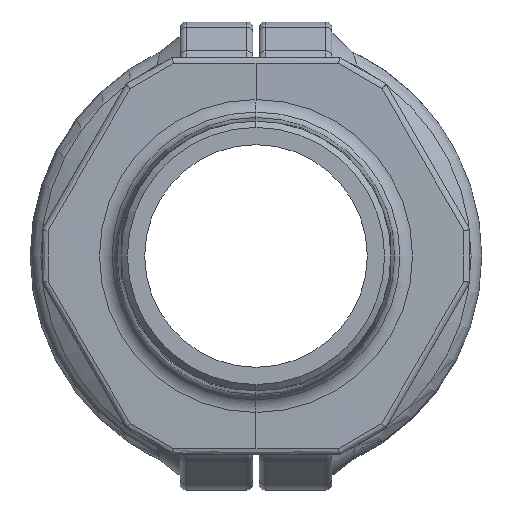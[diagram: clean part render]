
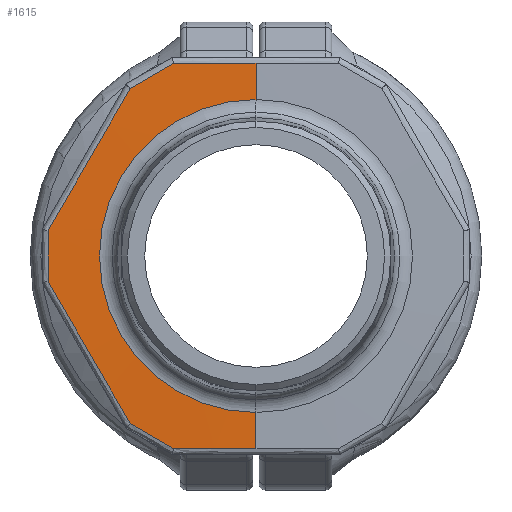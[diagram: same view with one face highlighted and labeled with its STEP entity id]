
A CAD part, left-side view. The second image highlights one B-rep face of the part: STEP entity #1615.
In plain terms, the highlighted conical face has half-angle 89 degrees and reference radius 30.107 mm.
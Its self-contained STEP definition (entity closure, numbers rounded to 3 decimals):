
#318=CARTESIAN_POINT('',(-61.516,13.528,31.704));
#330=CARTESIAN_POINT('',(-61.516,20.693,27.567));
#389=CARTESIAN_POINT('',(-61.516,13.528,31.704));
#390=CARTESIAN_POINT('',(-61.547,9.019,31.705));
#391=CARTESIAN_POINT('',(-61.563,4.509,31.706));
#392=CARTESIAN_POINT('',(-61.563,0.,
31.706));
#397=DIRECTION('',(-0.018,0.,-1.));
#398=VECTOR('',#397,5.962);
#399=CARTESIAN_POINT('',(-61.563,0.,
31.706));
#400=LINE('',#399,#398);
#404=CARTESIAN_POINT('',(-61.563,0.,
-31.706));
#405=CARTESIAN_POINT('',(-61.563,4.51,-31.706));
#406=CARTESIAN_POINT('',(-61.547,9.019,-31.705));
#407=CARTESIAN_POINT('',(-61.516,13.528,-31.704));
#412=CARTESIAN_POINT('',(-61.516,13.528,-31.704));
#413=CARTESIAN_POINT('',(-61.522,15.916,-30.326));
#414=CARTESIAN_POINT('',(-61.522,18.305,-28.947));
#415=CARTESIAN_POINT('',(-61.516,20.693,-27.567));
#420=CARTESIAN_POINT('',(-61.516,20.693,-27.567));
#421=CARTESIAN_POINT('',(-61.577,25.203,-19.759));
#422=CARTESIAN_POINT('',(-61.577,29.713,-11.947));
#423=CARTESIAN_POINT('',(-61.516,34.221,-4.137));
#428=CARTESIAN_POINT('',(-61.516,34.221,-4.137));
#429=CARTESIAN_POINT('',(-61.522,34.221,-1.379));
#430=CARTESIAN_POINT('',(-61.522,34.221,1.379));
#431=CARTESIAN_POINT('',(-61.516,34.221,4.137));
#436=CARTESIAN_POINT('',(-61.516,34.221,4.137));
#437=CARTESIAN_POINT('',(-61.577,29.713,11.947));
#438=CARTESIAN_POINT('',(-61.577,25.203,19.759));
#439=CARTESIAN_POINT('',(-61.516,20.693,27.567));
#444=CARTESIAN_POINT('',(-61.516,20.693,27.567));
#445=CARTESIAN_POINT('',(-61.522,18.305,28.947));
#446=CARTESIAN_POINT('',(-61.522,15.916,30.326));
#447=CARTESIAN_POINT('',(-61.516,13.528,31.704));
#822=DIRECTION('',(-0.018,0.,1.));
#823=VECTOR('',#822,5.962);
#824=CARTESIAN_POINT('',(-61.563,0.,
-31.706));
#825=LINE('',#824,#823);
#885=CARTESIAN_POINT('',(-61.668,0.,0.));
#886=DIRECTION('',(1.,0.,0.));
#887=DIRECTION('',(0.,0.,-1.));
#888=AXIS2_PLACEMENT_3D('',#885,#886,#887);
#1201=VERTEX_POINT('',#330);
#1202=VERTEX_POINT('',#318);
#1204=VERTEX_POINT('',#436);
#1210=VERTEX_POINT('',#428);
#1211=VERTEX_POINT('',#392);
#1212=CARTESIAN_POINT('',(-61.668,0.,
25.745));
#1213=VERTEX_POINT('',#1212);
#1214=CARTESIAN_POINT('',(-61.668,0.,-25.745));
#1215=VERTEX_POINT('',#1214);
#1216=CARTESIAN_POINT('',(-61.563,0.,
-31.706));
#1217=VERTEX_POINT('',#1216);
#1218=VERTEX_POINT('',#407);
#1219=VERTEX_POINT('',#415);
#1591=CARTESIAN_POINT('',(-61.592,0.,0.));
#1592=DIRECTION('',(1.,0.,0.));
#1593=DIRECTION('',(0.,0.,-1.));
#1594=AXIS2_PLACEMENT_3D('',#1591,#1592,#1593);
#1595=CONICAL_SURFACE('',#1594,30.107,89.);
#1597=ORIENTED_EDGE('',*,*,#1596,.T.);
#1599=ORIENTED_EDGE('',*,*,#1598,.T.);
#1601=ORIENTED_EDGE('',*,*,#1600,.F.);
#1603=ORIENTED_EDGE('',*,*,#1602,.F.);
#1605=ORIENTED_EDGE('',*,*,#1604,.T.);
#1607=ORIENTED_EDGE('',*,*,#1606,.T.);
#1609=ORIENTED_EDGE('',*,*,#1608,.T.);
#1610=ORIENTED_EDGE('',*,*,#1583,.T.);
#1611=ORIENTED_EDGE('',*,*,#1529,.T.);
#1612=ORIENTED_EDGE('',*,*,#1504,.T.);
#1613=EDGE_LOOP('',(#1597,#1599,#1601,#1603,#1605,#1607,#1609,#1610,#1611,
#1612));
#1614=FACE_OUTER_BOUND('',#1613,.F.);
#393=B_SPLINE_CURVE_WITH_KNOTS('',3,(#389,#390,#391,#392),.UNSPECIFIED.,.F.,.F.,
(4,4),(0.,1.),.UNSPECIFIED.);
#408=B_SPLINE_CURVE_WITH_KNOTS('',3,(#404,#405,#406,#407),.UNSPECIFIED.,.F.,.F.,
(4,4),(0.,1.),.UNSPECIFIED.);
#416=B_SPLINE_CURVE_WITH_KNOTS('',3,(#412,#413,#414,#415),.UNSPECIFIED.,.F.,.F.,
(4,4),(0.,1.),.UNSPECIFIED.);
#424=B_SPLINE_CURVE_WITH_KNOTS('',3,(#420,#421,#422,#423),.UNSPECIFIED.,.F.,.F.,
(4,4),(0.,1.),.UNSPECIFIED.);
#432=B_SPLINE_CURVE_WITH_KNOTS('',3,(#428,#429,#430,#431),.UNSPECIFIED.,.F.,.F.,
(4,4),(0.,1.),.UNSPECIFIED.);
#440=B_SPLINE_CURVE_WITH_KNOTS('',3,(#436,#437,#438,#439),.UNSPECIFIED.,.F.,.F.,
(4,4),(0.,1.),.UNSPECIFIED.);
#448=B_SPLINE_CURVE_WITH_KNOTS('',3,(#444,#445,#446,#447),.UNSPECIFIED.,.F.,.F.,
(4,4),(0.,1.),.UNSPECIFIED.);
#889=CIRCLE('',#888,25.745);
#1504=EDGE_CURVE('',#1201,#1202,#448,.T.);
#1529=EDGE_CURVE('',#1204,#1201,#440,.T.);
#1583=EDGE_CURVE('',#1210,#1204,#432,.T.);
#1596=EDGE_CURVE('',#1202,#1211,#393,.T.);
#1598=EDGE_CURVE('',#1211,#1213,#400,.T.);
#1600=EDGE_CURVE('',#1215,#1213,#889,.T.);
#1602=EDGE_CURVE('',#1217,#1215,#825,.T.);
#1604=EDGE_CURVE('',#1217,#1218,#408,.T.);
#1606=EDGE_CURVE('',#1218,#1219,#416,.T.);
#1608=EDGE_CURVE('',#1219,#1210,#424,.T.);
#1615=ADVANCED_FACE('',(#1614),#1595,.T.);
